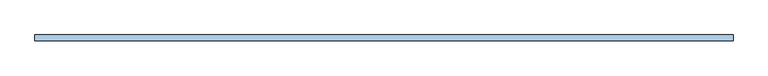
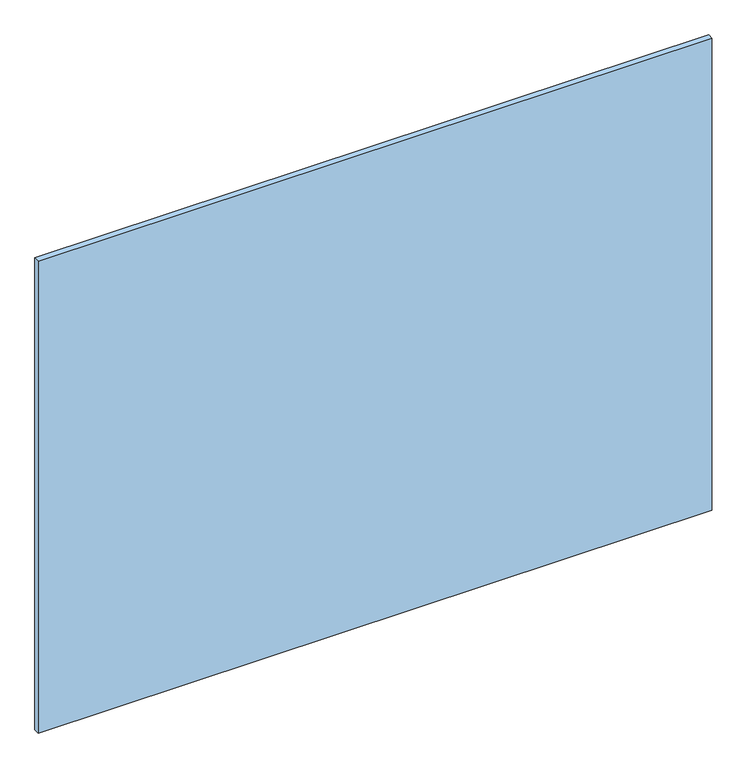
"""IFC4 building model written with IfcOpenShell, lengths in millimetres: window geometry, espejo biselado sin marco : ESP-5  espejo biselado 130 x 104."""

from ifc_helpers import new_model, si_unit, origin, origin_with_axes, place, context, project, spatial, polyline, outline, extrude, source, transform, mapped, element, save


def window_6203ab25(model_context):
    return source(origin(), model_context, "Body", "SweptSolid", [
        extrude(outline(polyline([(-675.0, 99.0), (-675.0, 110.0), (675.0, 110.0), (675.0, 99.0), (-675.0, 99.0)])), origin_with_axes(), (0.0, 0.0, 1.0), 1000.0),
    ])


if __name__ == "__main__":
    model = new_model("IFC4")
    model_context = context("Model", 3, world=origin())
    ifc_project = project(units=[si_unit("LENGTHUNIT", "METRE", prefix="MILLI")], contexts=[model_context])
    site = spatial("IfcSite", under=ifc_project)
    building = spatial("IfcBuilding", under=site)
    placement = place(None, origin())
    window_shape = window_6203ab25(model_context)
    element("IfcWindow", 1, ObjectType="espejo biselado sin marco : ESP-5  espejo biselado 130 x 104", at=placement, inside=building, context=model_context, shape_type="MappedRepresentation", body=[
        mapped(window_shape, transform((0.0, 0.0, 0.0), x_axis=(1.0, 0.0, 0.0), y_axis=(0.0, 1.0, 0.0), z_axis=(0.0, 0.0, 1.0))),
    ])
    save(model, "model.ifc")
